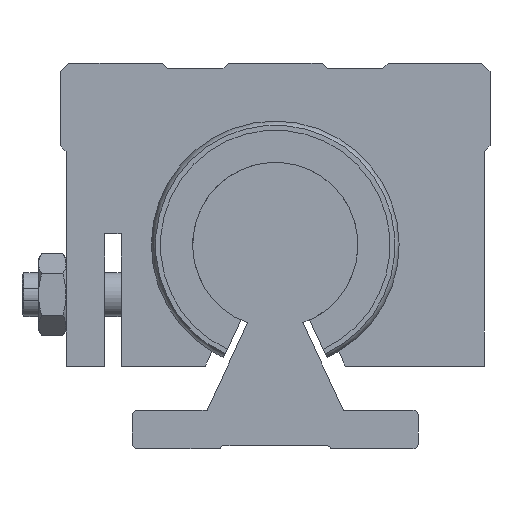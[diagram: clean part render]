
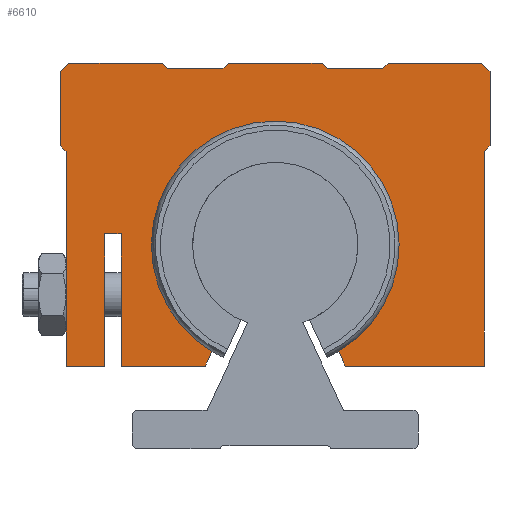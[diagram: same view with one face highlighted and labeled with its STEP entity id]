
A CAD part, left-side view. The second image highlights one B-rep face of the part: STEP entity #6610.
In plain terms, the highlighted planar face has unit normal (-1, 0, 0).
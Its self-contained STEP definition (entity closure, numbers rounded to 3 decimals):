
#5363=CARTESIAN_POINT('',(265.382,-11.5,17.661));
#5364=VERTEX_POINT('',#5363);
#5371=CARTESIAN_POINT('',(265.382,11.5,17.661));
#5372=VERTEX_POINT('',#5371);
#5373=CARTESIAN_POINT('',(265.382,0.,37.0));
#5374=DIRECTION('',(-1.0,0.0,0.0));
#5375=DIRECTION('',(0.0,-1.0,0.0));
#5376=AXIS2_PLACEMENT_3D('',#5373,#5374,#5375);
#5377=CIRCLE('',#5376,22.5);
#5378=EDGE_CURVE('',#5364,#5372,#5377,.T.);
#5470=CARTESIAN_POINT('',(265.382,-8.5,70.0));
#5471=VERTEX_POINT('',#5470);
#5472=CARTESIAN_POINT('',(265.382,-9.5,69.0));
#5473=VERTEX_POINT('',#5472);
#5474=CARTESIAN_POINT('',(265.382,-8.5,70.0));
#5475=DIRECTION('',(0.0,-0.707,-0.707));
#5476=VECTOR('',#5475,1.414);
#5477=LINE('',#5474,#5476);
#5478=EDGE_CURVE('',#5471,#5473,#5477,.T.);
#5511=CARTESIAN_POINT('',(265.382,-19.5,69.0));
#5512=VERTEX_POINT('',#5511);
#5513=CARTESIAN_POINT('',(265.382,-9.5,69.0));
#5514=DIRECTION('',(0.0,-1.0,0.0));
#5515=VECTOR('',#5514,10.);
#5516=LINE('',#5513,#5515);
#5517=EDGE_CURVE('',#5473,#5512,#5516,.T.);
#5541=CARTESIAN_POINT('',(265.382,20.5,70.0));
#5542=VERTEX_POINT('',#5541);
#5543=CARTESIAN_POINT('',(265.382,19.5,69.0));
#5544=VERTEX_POINT('',#5543);
#5545=CARTESIAN_POINT('',(265.382,20.5,70.0));
#5546=DIRECTION('',(0.0,-0.707,-0.707));
#5547=VECTOR('',#5546,1.414);
#5548=LINE('',#5545,#5547);
#5549=EDGE_CURVE('',#5542,#5544,#5548,.T.);
#5582=CARTESIAN_POINT('',(265.382,9.5,69.0));
#5583=VERTEX_POINT('',#5582);
#5584=CARTESIAN_POINT('',(265.382,19.5,69.0));
#5585=DIRECTION('',(0.0,-1.0,0.0));
#5586=VECTOR('',#5585,10.);
#5587=LINE('',#5584,#5586);
#5588=EDGE_CURVE('',#5544,#5583,#5587,.T.);
#5612=CARTESIAN_POINT('',(265.382,8.5,70.0));
#5613=VERTEX_POINT('',#5612);
#5614=CARTESIAN_POINT('',(265.382,9.5,69.0));
#5615=DIRECTION('',(0.0,-0.707,0.707));
#5616=VECTOR('',#5615,1.414);
#5617=LINE('',#5614,#5616);
#5618=EDGE_CURVE('',#5583,#5613,#5617,.T.);
#5643=CARTESIAN_POINT('',(265.382,-20.5,70.0));
#5644=VERTEX_POINT('',#5643);
#5645=CARTESIAN_POINT('',(265.382,-19.5,69.0));
#5646=DIRECTION('',(0.0,-0.707,0.707));
#5647=VECTOR('',#5646,1.414);
#5648=LINE('',#5645,#5647);
#5649=EDGE_CURVE('',#5512,#5644,#5648,.T.);
#5674=CARTESIAN_POINT('',(265.382,38.,54.0));
#5675=VERTEX_POINT('',#5674);
#5676=CARTESIAN_POINT('',(265.382,39.0,55.0));
#5677=VERTEX_POINT('',#5676);
#5678=CARTESIAN_POINT('',(265.382,38.,54.0));
#5679=DIRECTION('',(0.0,0.707,0.707));
#5680=VECTOR('',#5679,1.414);
#5681=LINE('',#5678,#5680);
#5682=EDGE_CURVE('',#5675,#5677,#5681,.T.);
#5714=CARTESIAN_POINT('',(265.382,-39.0,55.0));
#5715=VERTEX_POINT('',#5714);
#5716=CARTESIAN_POINT('',(265.382,-38.,54.0));
#5717=VERTEX_POINT('',#5716);
#5718=CARTESIAN_POINT('',(265.382,-39.0,55.0));
#5719=DIRECTION('',(0.0,0.707,-0.707));
#5720=VECTOR('',#5719,1.414);
#5721=LINE('',#5718,#5720);
#5722=EDGE_CURVE('',#5715,#5717,#5721,.T.);
#5755=CARTESIAN_POINT('',(265.382,-38.0,15.0));
#5756=VERTEX_POINT('',#5755);
#5757=CARTESIAN_POINT('',(265.382,-38.,54.0));
#5758=DIRECTION('',(0.0,0.0,-1.0));
#5759=VECTOR('',#5758,39.0);
#5760=LINE('',#5757,#5759);
#5761=EDGE_CURVE('',#5717,#5756,#5760,.T.);
#5795=CARTESIAN_POINT('',(265.382,39.0,68.5));
#5796=VERTEX_POINT('',#5795);
#5803=CARTESIAN_POINT('',(265.382,37.5,70.));
#5804=VERTEX_POINT('',#5803);
#5805=CARTESIAN_POINT('',(265.382,39.0,68.5));
#5806=DIRECTION('',(0.0,-0.707,0.707));
#5807=VECTOR('',#5806,2.121);
#5808=LINE('',#5805,#5807);
#5809=EDGE_CURVE('',#5796,#5804,#5808,.T.);
#5833=CARTESIAN_POINT('',(265.382,39.0,55.0));
#5834=DIRECTION('',(0.0,0.0,1.0));
#5835=VECTOR('',#5834,13.5);
#5836=LINE('',#5833,#5835);
#5837=EDGE_CURVE('',#5677,#5796,#5836,.T.);
#5970=CARTESIAN_POINT('',(265.382,-37.5,70.));
#5971=VERTEX_POINT('',#5970);
#5978=CARTESIAN_POINT('',(265.382,-39.0,68.5));
#5979=VERTEX_POINT('',#5978);
#5980=CARTESIAN_POINT('',(265.382,-37.5,70.));
#5981=DIRECTION('',(0.0,-0.707,-0.707));
#5982=VECTOR('',#5981,2.121);
#5983=LINE('',#5980,#5982);
#5984=EDGE_CURVE('',#5971,#5979,#5983,.T.);
#6003=CARTESIAN_POINT('',(265.382,-20.5,70.0));
#6004=DIRECTION('',(0.0,-1.0,0.0));
#6005=VECTOR('',#6004,17.);
#6006=LINE('',#6003,#6005);
#6007=EDGE_CURVE('',#5644,#5971,#6006,.T.);
#6341=CARTESIAN_POINT('',(265.382,38.0,15.0));
#6342=VERTEX_POINT('',#6341);
#6349=CARTESIAN_POINT('',(265.382,38.0,15.0));
#6350=DIRECTION('',(0.0,0.0,1.0));
#6351=VECTOR('',#6350,39.0);
#6352=LINE('',#6349,#6351);
#6353=EDGE_CURVE('',#6342,#5675,#6352,.T.);
#6372=CARTESIAN_POINT('',(265.382,31.,15.));
#6373=VERTEX_POINT('',#6372);
#6380=CARTESIAN_POINT('',(265.382,31.,15.));
#6381=DIRECTION('',(0.0,1.0,0.0));
#6382=VECTOR('',#6381,7.);
#6383=LINE('',#6380,#6382);
#6384=EDGE_CURVE('',#6373,#6342,#6383,.T.);
#6396=CARTESIAN_POINT('',(265.382,31.,39.));
#6397=VERTEX_POINT('',#6396);
#6404=CARTESIAN_POINT('',(265.382,31.,39.));
#6405=DIRECTION('',(0.0,0.0,-1.0));
#6406=VECTOR('',#6405,24.);
#6407=LINE('',#6404,#6406);
#6408=EDGE_CURVE('',#6397,#6373,#6407,.T.);
#6423=CARTESIAN_POINT('',(265.382,28.,39.));
#6424=VERTEX_POINT('',#6423);
#6431=CARTESIAN_POINT('',(265.382,28.,39.));
#6432=DIRECTION('',(0.0,1.0,0.0));
#6433=VECTOR('',#6432,3.);
#6434=LINE('',#6431,#6433);
#6435=EDGE_CURVE('',#6424,#6397,#6434,.T.);
#6447=CARTESIAN_POINT('',(265.382,28.,15.));
#6448=VERTEX_POINT('',#6447);
#6455=CARTESIAN_POINT('',(265.382,28.,15.));
#6456=DIRECTION('',(0.0,0.0,1.0));
#6457=VECTOR('',#6456,24.);
#6458=LINE('',#6455,#6457);
#6459=EDGE_CURVE('',#6448,#6424,#6458,.T.);
#6474=CARTESIAN_POINT('',(265.382,12.741,15.));
#6475=VERTEX_POINT('',#6474);
#6482=CARTESIAN_POINT('',(265.382,12.741,15.));
#6483=DIRECTION('',(0.0,1.0,0.0));
#6484=VECTOR('',#6483,15.259);
#6485=LINE('',#6482,#6484);
#6486=EDGE_CURVE('',#6475,#6448,#6485,.T.);
#6505=CARTESIAN_POINT('',(265.382,11.5,17.661));
#6506=DIRECTION('',(0.0,0.423,-0.906));
#6507=VECTOR('',#6506,2.936);
#6508=LINE('',#6505,#6507);
#6509=EDGE_CURVE('',#5372,#6475,#6508,.T.);
#6521=CARTESIAN_POINT('',(265.382,-12.741,15.));
#6522=VERTEX_POINT('',#6521);
#6529=CARTESIAN_POINT('',(265.382,-12.741,15.));
#6530=DIRECTION('',(0.0,0.423,0.906));
#6531=VECTOR('',#6530,2.936);
#6532=LINE('',#6529,#6531);
#6533=EDGE_CURVE('',#6522,#5364,#6532,.T.);
#6552=CARTESIAN_POINT('',(265.382,-38.0,15.0));
#6553=DIRECTION('',(0.0,1.0,0.0));
#6554=VECTOR('',#6553,25.259);
#6555=LINE('',#6552,#6554);
#6556=EDGE_CURVE('',#5756,#6522,#6555,.T.);
#6562=CARTESIAN_POINT('',(265.382,3.457,41.113));
#6563=DIRECTION('',(1.0,0.0,0.0));
#6564=DIRECTION('',(0.0,0.0,-1.0));
#6565=AXIS2_PLACEMENT_3D('',#6562,#6563,#6564);
#6566=PLANE('',#6565);
#6567=ORIENTED_EDGE('',*,*,#5809,.F.);
#6568=ORIENTED_EDGE('',*,*,#5837,.F.);
#6569=ORIENTED_EDGE('',*,*,#5682,.F.);
#6570=ORIENTED_EDGE('',*,*,#6353,.F.);
#6571=ORIENTED_EDGE('',*,*,#6384,.F.);
#6572=ORIENTED_EDGE('',*,*,#6408,.F.);
#6573=ORIENTED_EDGE('',*,*,#6435,.F.);
#6574=ORIENTED_EDGE('',*,*,#6459,.F.);
#6575=ORIENTED_EDGE('',*,*,#6486,.F.);
#6576=ORIENTED_EDGE('',*,*,#6509,.F.);
#6577=ORIENTED_EDGE('',*,*,#5378,.F.);
#6578=ORIENTED_EDGE('',*,*,#6533,.F.);
#6579=ORIENTED_EDGE('',*,*,#6556,.F.);
#6580=ORIENTED_EDGE('',*,*,#5761,.F.);
#6581=ORIENTED_EDGE('',*,*,#5722,.F.);
#6582=CARTESIAN_POINT('',(265.382,-39.0,68.5));
#6583=DIRECTION('',(0.0,0.0,-1.0));
#6584=VECTOR('',#6583,13.5);
#6585=LINE('',#6582,#6584);
#6586=EDGE_CURVE('',#5979,#5715,#6585,.T.);
#6587=ORIENTED_EDGE('',*,*,#6586,.F.);
#6588=ORIENTED_EDGE('',*,*,#5984,.F.);
#6589=ORIENTED_EDGE('',*,*,#6007,.F.);
#6590=ORIENTED_EDGE('',*,*,#5649,.F.);
#6591=ORIENTED_EDGE('',*,*,#5517,.F.);
#6592=ORIENTED_EDGE('',*,*,#5478,.F.);
#6593=CARTESIAN_POINT('',(265.382,8.5,70.0));
#6594=DIRECTION('',(0.0,-1.0,0.0));
#6595=VECTOR('',#6594,17.0);
#6596=LINE('',#6593,#6595);
#6597=EDGE_CURVE('',#5613,#5471,#6596,.T.);
#6598=ORIENTED_EDGE('',*,*,#6597,.F.);
#6599=ORIENTED_EDGE('',*,*,#5618,.F.);
#6600=ORIENTED_EDGE('',*,*,#5588,.F.);
#6601=ORIENTED_EDGE('',*,*,#5549,.F.);
#6602=CARTESIAN_POINT('',(265.382,37.5,70.));
#6603=DIRECTION('',(0.0,-1.0,0.0));
#6604=VECTOR('',#6603,17.);
#6605=LINE('',#6602,#6604);
#6606=EDGE_CURVE('',#5804,#5542,#6605,.T.);
#6607=ORIENTED_EDGE('',*,*,#6606,.F.);
#6608=EDGE_LOOP('',(#6567,#6568,#6569,#6570,#6571,#6572,#6573,#6574,#6575,#6576,#6577,#6578,#6579,#6580,#6581,#6587,#6588,#6589,#6590,#6591,#6592,#6598,#6599,#6600,#6601,#6607));
#6609=FACE_OUTER_BOUND('',#6608,.T.);
#6610=ADVANCED_FACE('',(#6609),#6566,.F.);
